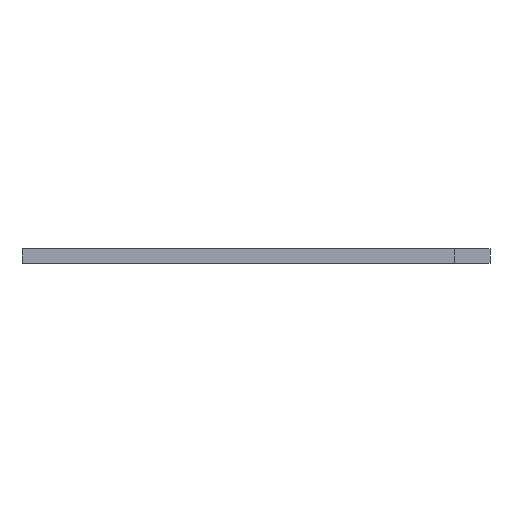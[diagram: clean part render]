
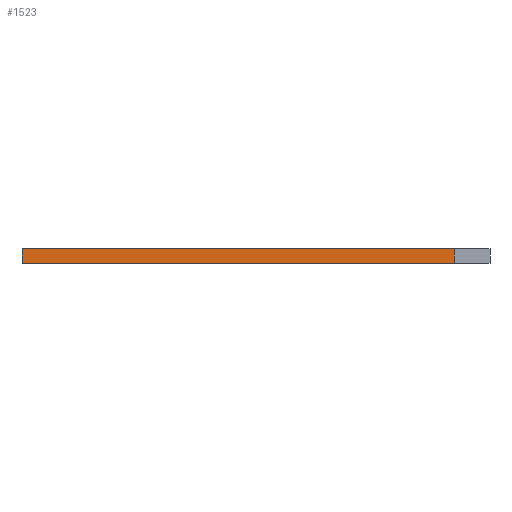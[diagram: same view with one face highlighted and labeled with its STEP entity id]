
A CAD part, front view. The second image highlights one B-rep face of the part: STEP entity #1523.
In plain terms, the highlighted planar face has unit normal (0, -1, 0).
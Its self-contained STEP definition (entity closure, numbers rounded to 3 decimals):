
#1503=AXIS2_PLACEMENT_3D('Plane Axis2P3D',#1500,#1501,#1502) ;
#128=CARTESIAN_POINT('Vertex',(0.,0.,10.)) ;
#131=CARTESIAN_POINT('Line Origine',(150.,0.,10.)) ;
#135=CARTESIAN_POINT('Vertex',(300.,0.,10.)) ;
#1480=CARTESIAN_POINT('Vertex',(0.,0.,0.)) ;
#1483=CARTESIAN_POINT('Line Origine',(0.,0.,5.)) ;
#1500=CARTESIAN_POINT('Axis2P3D Location',(0.,0.,0.)) ;
#1505=CARTESIAN_POINT('Line Origine',(150.,0.,0.)) ;
#1509=CARTESIAN_POINT('Vertex',(300.,0.,0.)) ;
#1512=CARTESIAN_POINT('Line Origine',(300.,0.,5.)) ;
#132=DIRECTION('Vector Direction',(1.,0.,0.)) ;
#1484=DIRECTION('Vector Direction',(0.,0.,1.)) ;
#1501=DIRECTION('Axis2P3D Direction',(0.,-1.,0.)) ;
#1502=DIRECTION('Axis2P3D XDirection',(1.,0.,0.)) ;
#1506=DIRECTION('Vector Direction',(1.,0.,0.)) ;
#1513=DIRECTION('Vector Direction',(0.,0.,-1.)) ;
#133=VECTOR('Line Direction',#132,1.) ;
#1485=VECTOR('Line Direction',#1484,1.) ;
#1507=VECTOR('Line Direction',#1506,1.) ;
#1514=VECTOR('Line Direction',#1513,1.) ;
#1518=ORIENTED_EDGE('',*,*,#137,.F.) ;
#1519=ORIENTED_EDGE('',*,*,#1487,.F.) ;
#1520=ORIENTED_EDGE('',*,*,#1511,.T.) ;
#1521=ORIENTED_EDGE('',*,*,#1516,.F.) ;
#1523=ADVANCED_FACE('\X2\96F64EF651E04F554F53\X0\',(#1522),#1504,.T.) ;
#137=EDGE_CURVE('',#129,#136,#134,.T.) ;
#1487=EDGE_CURVE('',#1481,#129,#1486,.T.) ;
#1511=EDGE_CURVE('',#1481,#1510,#1508,.T.) ;
#1516=EDGE_CURVE('',#136,#1510,#1515,.T.) ;
#1517=EDGE_LOOP('',(#1518,#1519,#1520,#1521)) ;
#1522=FACE_OUTER_BOUND('',#1517,.T.) ;
#134=LINE('Line',#131,#133) ;
#1486=LINE('Line',#1483,#1485) ;
#1508=LINE('Line',#1505,#1507) ;
#1515=LINE('Line',#1512,#1514) ;
#1504=PLANE('',#1503) ;
#129=VERTEX_POINT('',#128) ;
#136=VERTEX_POINT('',#135) ;
#1481=VERTEX_POINT('',#1480) ;
#1510=VERTEX_POINT('',#1509) ;
